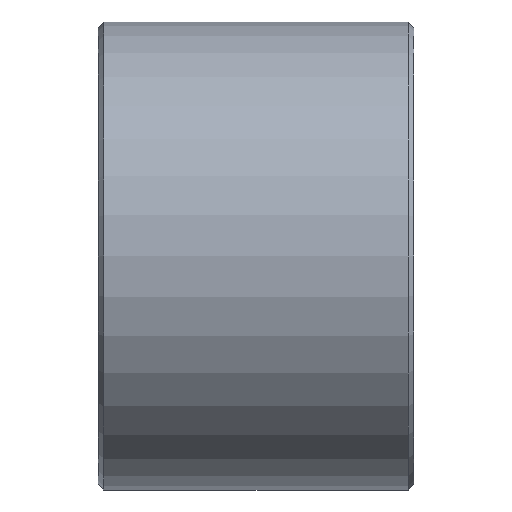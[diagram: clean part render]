
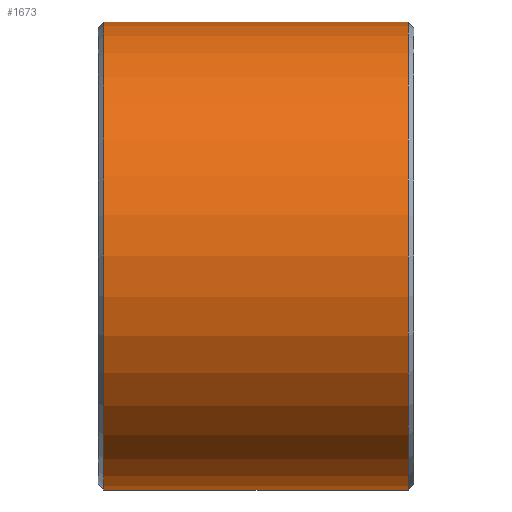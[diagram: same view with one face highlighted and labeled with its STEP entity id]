
A CAD part, front view. The second image highlights one B-rep face of the part: STEP entity #1673.
In plain terms, the highlighted cylindrical face has radius 20 mm (diameter 40 mm), a partial arc.
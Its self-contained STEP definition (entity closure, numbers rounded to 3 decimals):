
#89=DIRECTION('',(1.,0.,0.));
#90=VECTOR('',#89,26.);
#91=CARTESIAN_POINT('',(-13.,0.,-20.));
#92=LINE('',#91,#90);
#136=CARTESIAN_POINT('',(13.,0.,0.));
#137=DIRECTION('',(1.,0.,0.));
#138=DIRECTION('',(0.,0.,1.));
#139=AXIS2_PLACEMENT_3D('',#136,#137,#138);
#141=CARTESIAN_POINT('',(-13.,0.,0.));
#142=DIRECTION('',(-1.,0.,0.));
#143=DIRECTION('',(0.,0.,-1.));
#144=AXIS2_PLACEMENT_3D('',#141,#142,#143);
#146=DIRECTION('',(1.,0.,0.));
#147=VECTOR('',#146,26.);
#148=CARTESIAN_POINT('',(-13.,0.,
20.));
#149=LINE('',#148,#147);
#1540=CARTESIAN_POINT('',(13.,0.,20.));
#1541=CARTESIAN_POINT('',(13.,0.,-20.));
#1542=VERTEX_POINT('',#1540);
#1543=VERTEX_POINT('',#1541);
#1548=CARTESIAN_POINT('',(-13.,0.,-20.));
#1549=CARTESIAN_POINT('',(-13.,0.,20.));
#1550=VERTEX_POINT('',#1548);
#1551=VERTEX_POINT('',#1549);
#1662=CARTESIAN_POINT('',(-13.5,0.,0.));
#1663=DIRECTION('',(1.,0.,0.));
#1664=DIRECTION('',(0.,0.,-1.));
#1665=AXIS2_PLACEMENT_3D('',#1662,#1663,#1664);
#1666=CYLINDRICAL_SURFACE('',#1665,20.);
#1667=ORIENTED_EDGE('',*,*,#1656,.T.);
#1668=ORIENTED_EDGE('',*,*,#1610,.F.);
#1669=ORIENTED_EDGE('',*,*,#1580,.T.);
#1670=ORIENTED_EDGE('',*,*,#1607,.T.);
#1671=EDGE_LOOP('',(#1667,#1668,#1669,#1670));
#1672=FACE_OUTER_BOUND('',#1671,.F.);
#1673=ADVANCED_FACE('',(#1672),#1666,.T.);
#140=CIRCLE('',#139,20.);
#145=CIRCLE('',#144,20.);
#1580=EDGE_CURVE('',#1550,#1551,#145,.T.);
#1607=EDGE_CURVE('',#1551,#1542,#149,.T.);
#1610=EDGE_CURVE('',#1550,#1543,#92,.T.);
#1656=EDGE_CURVE('',#1542,#1543,#140,.T.);
